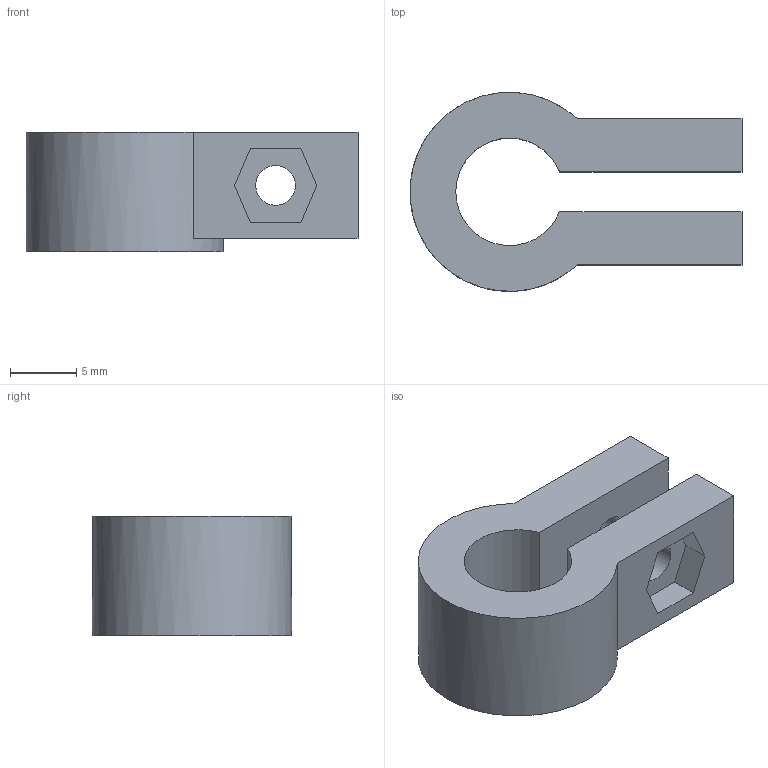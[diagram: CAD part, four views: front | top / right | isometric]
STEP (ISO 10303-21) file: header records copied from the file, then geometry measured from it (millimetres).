
FILE_DESCRIPTION(/* description */ (''),/* implementation_level */ '2;1');
FILE_NAME(/* name */ 'D:\3D печать\Мои проекты\Archy MK 2\STEP\MK3\зажим вала для фиксации плеча правый.stp',/* time_stamp */ '2019-08-16T23:00:08+06:00',/* author */ ('Пользователь'),/* organization */ (''),/* preprocessor_version */ 'ST-DEVELOPER v16.5',/* originating_system */ 'Autodesk Inventor 2017',/* authorisation */ '');
FILE_SCHEMA (('AUTOMOTIVE_DESIGN { 1 0 10303 214 3 1 1 }'));
Length unit declared in the file: millimetre
Products named in the file (1): зажим вала \X2\0434043B044F
\X0\ фиксации \X2\043F043B043504470430
\X0\ правый
Bounding box: 25 x 15 x 9 mm (x, y, z)
Volume: 1637.2 mm3; surface area: 1486 mm2
Topology: 1 solids, 1 shells, 22 faces, 57 edges, 38 vertices
Faces by surface type: plane 18, cylinder 4
Full cylindrical faces by diameter (mm): 3 x2
Entity records: 693 total; most frequent: CARTESIAN_POINT 116, DIRECTION 111, ORIENTED_EDGE 110, EDGE_CURVE 55, LINE 45, VECTOR 45, VERTEX_POINT 38, AXIS2_PLACEMENT_3D 33
